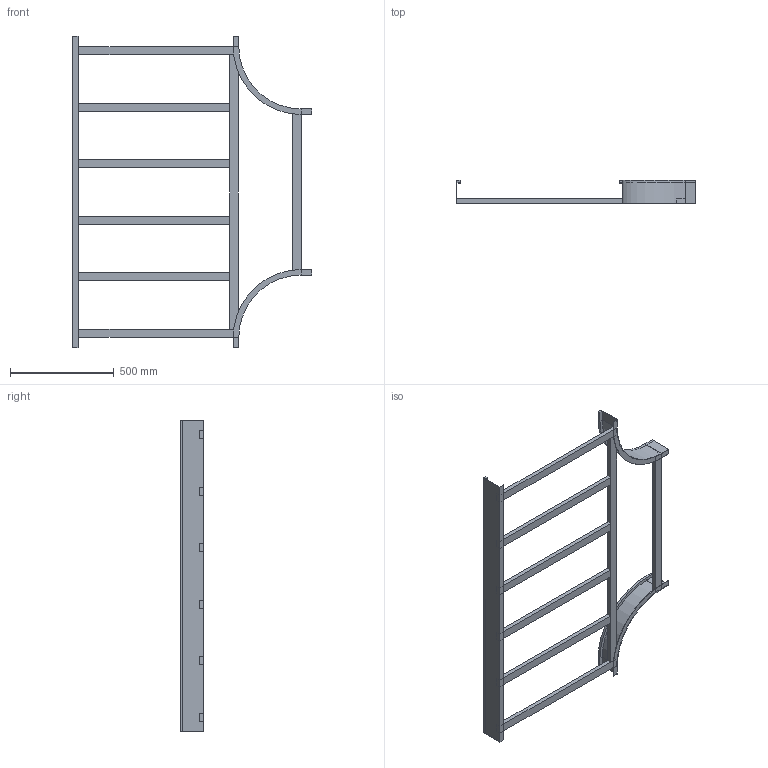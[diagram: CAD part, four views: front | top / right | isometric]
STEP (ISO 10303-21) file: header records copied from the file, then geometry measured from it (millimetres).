
FILE_DESCRIPTION (( 'STEP AP214' ), '1' );
FILE_NAME ('B2_15B3J800.step', '2025-02-21T15:52:19', ( '' ), ( '' ), 'SwSTEP 2.0', 'SolidWorks 2023', '' );
FILE_SCHEMA (( 'AUTOMOTIVE_DESIGN' ));
Length unit declared in the file: millimetre
Products named in the file (6): B2_15B3J800; TRAVERSINO_INTERMEDIO_R300+800; B2_LONGH.INTERNO 90°_H112.5_R300; B2_LONGH.RETT_H112.5_R300+800; TRAVERSINO_800; B2_TRAVERSINO_LONG._R300+800
Assembly tree (11 placements, depth 2):
  B2_15B3J800
    B2_LONGH.INTERNO 90°_H112.5_R300  x2
    B2_LONGH.RETT_H112.5_R300+800
    TRAVERSINO_800  x3
    B2_TRAVERSINO_LONG._R300+800
    TRAVERSINO_INTERMEDIO_R300+800  x4
Bounding box: 1150 x 112.5 x 1500 mm (x, y, z)
Volume: 6693543.5 mm3; surface area: 1656544.2 mm2
Topology: 11 solids, 11 shells, 110 faces, 232 edges, 144 vertices
Faces by surface type: plane 102, cylinder 8
Entity records: 1655 total; most frequent: DIRECTION 260, CARTESIAN_POINT 256, ORIENTED_EDGE 232, EDGE_CURVE 116, LINE 108, VECTOR 108, AXIS2_PLACEMENT_3D 76, VERTEX_POINT 72
